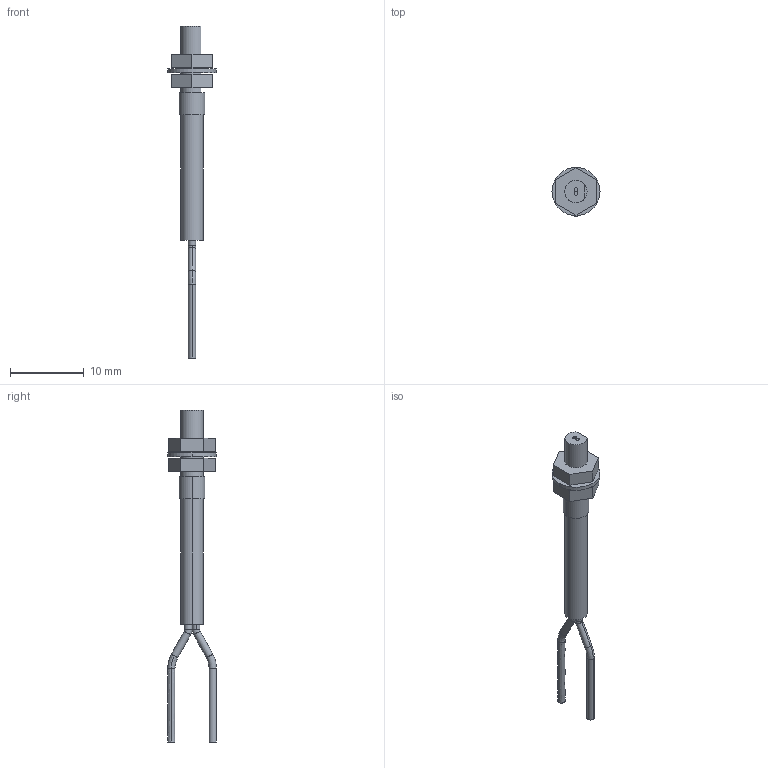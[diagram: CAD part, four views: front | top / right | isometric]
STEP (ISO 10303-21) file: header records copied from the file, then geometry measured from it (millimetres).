
FILE_DESCRIPTION (( 'STEP AP203' ), '1' );
FILE_NAME ('FD-T40.STEP', '2005-09-04T10:21:33', ( '川島良英' ), ( ' ' ), 'SwSTEP 2.0', 'SolidWorks 2004251', '' );
FILE_SCHEMA (( 'CONFIG_CONTROL_DESIGN' ));
Length unit declared in the file: millimetre
Products named in the file (1): FD-T40
Bounding box: 6.5 x 6.6 x 44.91 mm (x, y, z)
Volume: 317.1 mm3; surface area: 646 mm2
Topology: 4 solids, 4 shells, 64 faces, 138 edges, 88 vertices
Faces by surface type: cylinder 27, plane 27, torus 6, bspline 4
Entity records: 1957 total; most frequent: CARTESIAN_POINT 443, DIRECTION 320, ORIENTED_EDGE 276, EDGE_CURVE 138, AXIS2_PLACEMENT_3D 127, VERTEX_POINT 88, EDGE_LOOP 76, CIRCLE 66
